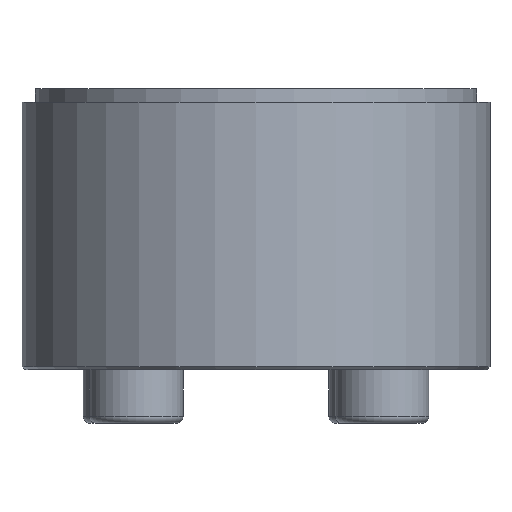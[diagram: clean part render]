
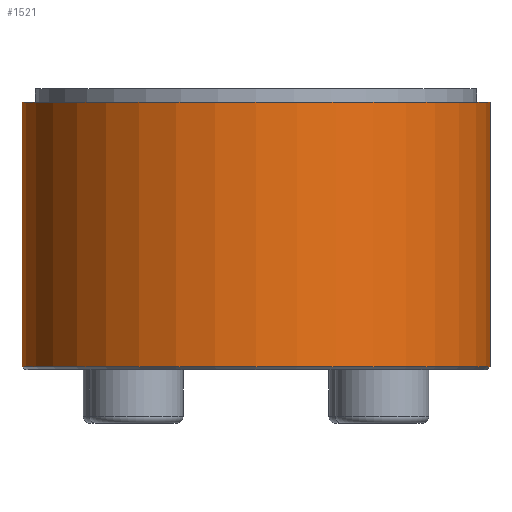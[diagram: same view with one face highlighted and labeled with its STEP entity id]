
A CAD part, front view. The second image highlights one B-rep face of the part: STEP entity #1521.
In plain terms, the highlighted cylindrical face has radius 17.5 mm (diameter 35 mm), a partial arc.
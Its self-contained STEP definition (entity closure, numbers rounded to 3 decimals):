
#2 = DIRECTION ( 'NONE',  ( -1., 0., 0. ) ) ;
#44 = CARTESIAN_POINT ( 'NONE',  ( -17.5, 0., 0. ) ) ;
#78 = AXIS2_PLACEMENT_3D ( 'NONE', #1263, #861, #311 ) ;
#162 = DIRECTION ( 'NONE',  ( 0., 0., -1. ) ) ;
#180 = VERTEX_POINT ( 'NONE', #1625 ) ;
#206 = CIRCLE ( 'NONE', #78, 17.5 ) ;
#293 = EDGE_CURVE ( 'NONE', #1052, #180, #891, .T. ) ;
#311 = DIRECTION ( 'NONE',  ( 1., 0., 0. ) ) ;
#313 = EDGE_CURVE ( 'NONE', #1052, #1019, #206, .T. ) ;
#366 = ORIENTED_EDGE ( 'NONE', *, *, #313, .T. ) ;
#448 = CARTESIAN_POINT ( 'NONE',  ( -17.5, 0., 9.5 ) ) ;
#461 = CYLINDRICAL_SURFACE ( 'NONE', #887, 17.5 ) ;
#574 = ORIENTED_EDGE ( 'NONE', *, *, #1031, .T. ) ;
#610 = VECTOR ( 'NONE', #1225, 1000. ) ;
#658 = ORIENTED_EDGE ( 'NONE', *, *, #293, .F. ) ;
#673 = CARTESIAN_POINT ( 'NONE',  ( 0., 0., 0. ) ) ;
#704 = CARTESIAN_POINT ( 'NONE',  ( 17.5, 0., 9.5 ) ) ;
#714 = DIRECTION ( 'NONE',  ( -1., 0., 0. ) ) ;
#733 = LINE ( 'NONE', #44, #1695 ) ;
#819 = DIRECTION ( 'NONE',  ( 0., 0., -1. ) ) ;
#861 = DIRECTION ( 'NONE',  ( 0., 0., -1. ) ) ;
#887 = AXIS2_PLACEMENT_3D ( 'NONE', #673, #819, #2 ) ;
#891 = LINE ( 'NONE', #932, #610 ) ;
#932 = CARTESIAN_POINT ( 'NONE',  ( 17.5, 0., 0. ) ) ;
#1019 = VERTEX_POINT ( 'NONE', #448 ) ;
#1022 = EDGE_CURVE ( 'NONE', #1236, #180, #1670, .T. ) ;
#1031 = EDGE_CURVE ( 'NONE', #1019, #1236, #733, .T. ) ;
#1052 = VERTEX_POINT ( 'NONE', #704 ) ;
#1153 = EDGE_LOOP ( 'NONE', ( #658, #366, #574, #1418 ) ) ;
#1165 = FACE_OUTER_BOUND ( 'NONE', #1153, .T. ) ;
#1225 = DIRECTION ( 'NONE',  ( 0., 0., -1. ) ) ;
#1236 = VERTEX_POINT ( 'NONE', #1581 ) ;
#1263 = CARTESIAN_POINT ( 'NONE',  ( 0., 0., 9.5 ) ) ;
#1266 = DIRECTION ( 'NONE',  ( 0., 0., 1. ) ) ;
#1418 = ORIENTED_EDGE ( 'NONE', *, *, #1022, .T. ) ;
#1521 = ADVANCED_FACE ( 'NONE', ( #1165 ), #461, .T. ) ;
#1554 = CARTESIAN_POINT ( 'NONE',  ( 0., 0., -10.3 ) ) ;
#1581 = CARTESIAN_POINT ( 'NONE',  ( -17.5, 0., -10.3 ) ) ;
#1625 = CARTESIAN_POINT ( 'NONE',  ( 17.5, 0., -10.3 ) ) ;
#1670 = CIRCLE ( 'NONE', #1724, 17.5 ) ;
#1695 = VECTOR ( 'NONE', #162, 1000. ) ;
#1724 = AXIS2_PLACEMENT_3D ( 'NONE', #1554, #1266, #714 ) ;
